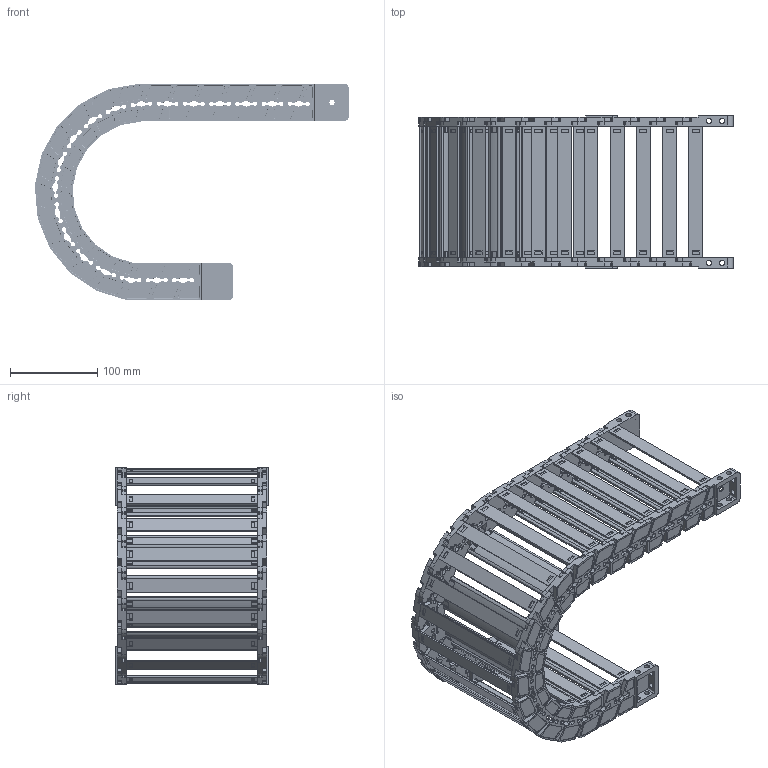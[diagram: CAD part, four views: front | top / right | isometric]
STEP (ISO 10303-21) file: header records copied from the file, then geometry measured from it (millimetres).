
FILE_DESCRIPTION((''),'2;1');
FILE_NAME('JY-35X150-R100_ASM','2025-01-05T19:30:01',('admin'),(''),'CREO PARAMETRIC BY PTC INC, 2021023','CREO PARAMETRIC BY PTC INC, 2021023','');
FILE_SCHEMA(('CONFIG_CONTROL_DESIGN'));
Length unit declared in the file: millimetre
Products named in the file (11): 35XL-L; YP; 35XL-R; ASM0001_ASM; 35-LTT-A-L; 35-LTT-A-R; 35XL-LTT-A_ASM; 35-LTT-B-L; 35-LTT-B-R; 35XL-LTT-B_ASM; JY-35X150-R100_ASM
Assembly tree (32 placements, depth 3):
  JY-35X150-R100_ASM
    ASM0001_ASM  x18
      35XL-L
      YP
      35XL-R
    35XL-LTT-A_ASM
      35-LTT-A-L
      YP  x2
      35-LTT-A-R
    35XL-LTT-B_ASM
      35-LTT-B-L
      YP  x2
      35-LTT-B-R
Bounding box: 359.13 x 174.5 x 247.81 mm (x, y, z)
Volume: 741684.2 mm3; surface area: 459868.6 mm2
Topology: 80 solids, 80 shells, 6520 faces, 19542 edges, 13190 vertices
Faces by surface type: plane 3688, cylinder 2148, cone 418, extrusion 152, bspline 114
Entity records: 27866 total; most frequent: CARTESIAN_POINT 6165, ORIENTED_EDGE 4640, DIRECTION 4359, EDGE_CURVE 2320, VERTEX_POINT 1568, AXIS2_PLACEMENT_3D 1471, VECTOR 1417, LINE 1401
